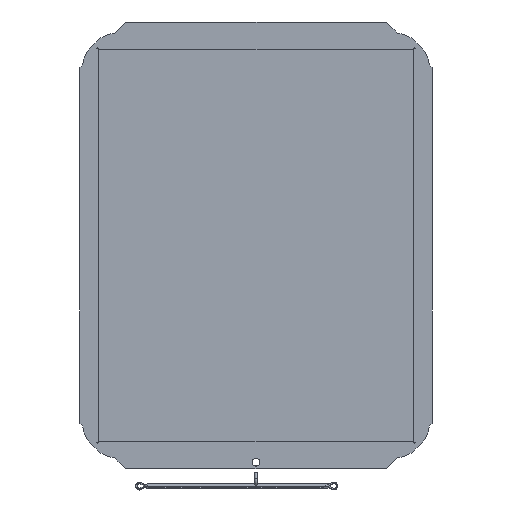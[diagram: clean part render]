
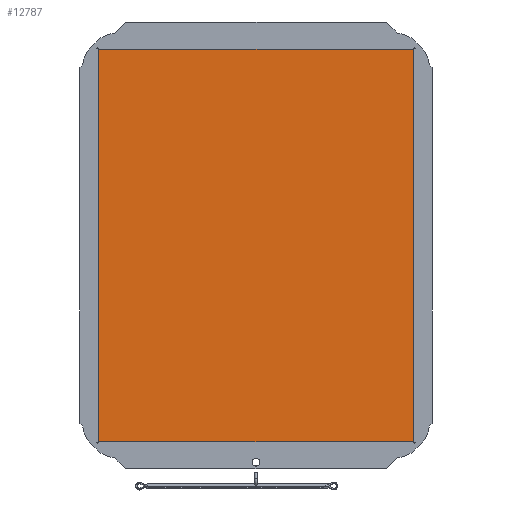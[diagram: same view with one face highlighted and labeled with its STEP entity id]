
A CAD part, front view. The second image highlights one B-rep face of the part: STEP entity #12787.
In plain terms, the highlighted planar face has unit normal (0, -1, 0).
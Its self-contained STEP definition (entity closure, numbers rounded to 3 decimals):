
#3184=ORIENTED_EDGE('',*,*,#5845,.T.);
#3185=ORIENTED_EDGE('',*,*,#5844,.T.);
#3186=ORIENTED_EDGE('',*,*,#5843,.T.);
#3187=ORIENTED_EDGE('',*,*,#5842,.T.);
#5842=EDGE_CURVE('',#7366,#7367,#8505,.T.);
#5843=EDGE_CURVE('',#7368,#7366,#8506,.T.);
#5844=EDGE_CURVE('',#7369,#7368,#8507,.T.);
#5845=EDGE_CURVE('',#7367,#7369,#8508,.T.);
#7366=VERTEX_POINT('',#22964);
#7367=VERTEX_POINT('',#22965);
#7368=VERTEX_POINT('',#22967);
#7369=VERTEX_POINT('',#22969);
#8505=LINE('',#22963,#9676);
#8506=LINE('',#22966,#9677);
#8507=LINE('',#22968,#9678);
#8508=LINE('',#22970,#9679);
#9676=VECTOR('',#16177,1000.);
#9677=VECTOR('',#16178,1000.);
#9678=VECTOR('',#16179,1000.);
#9679=VECTOR('',#16180,1000.);
#10754=EDGE_LOOP('',(#3184,#3185,#3186,#3187));
#11603=FACE_BOUND('',#10754,.T.);
#12194=PLANE('',#13828);
#12787=ADVANCED_FACE('',(#11603),#12194,.T.);
#13828=AXIS2_PLACEMENT_3D('',#23057,#16246,#16247);
#16177=DIRECTION('',(-1.,0.,0.));
#16178=DIRECTION('',(0.,0.,1.));
#16179=DIRECTION('',(1.,0.,0.));
#16180=DIRECTION('',(0.,0.,-1.));
#16246=DIRECTION('',(0.,-1.,0.));
#16247=DIRECTION('',(0.,0.,-1.));
#22963=CARTESIAN_POINT('',(102.819,0.,128.219));
#22964=CARTESIAN_POINT('',(102.819,0.,128.219));
#22965=CARTESIAN_POINT('',(-102.819,0.,128.219));
#22966=CARTESIAN_POINT('',(102.819,0.,-128.219));
#22967=CARTESIAN_POINT('',(102.819,0.,-128.219));
#22968=CARTESIAN_POINT('',(-102.819,0.,-128.219));
#22969=CARTESIAN_POINT('',(-102.819,0.,-128.219));
#22970=CARTESIAN_POINT('',(-102.819,0.,128.219));
#23057=CARTESIAN_POINT('',(-102.819,0.,-128.219));
